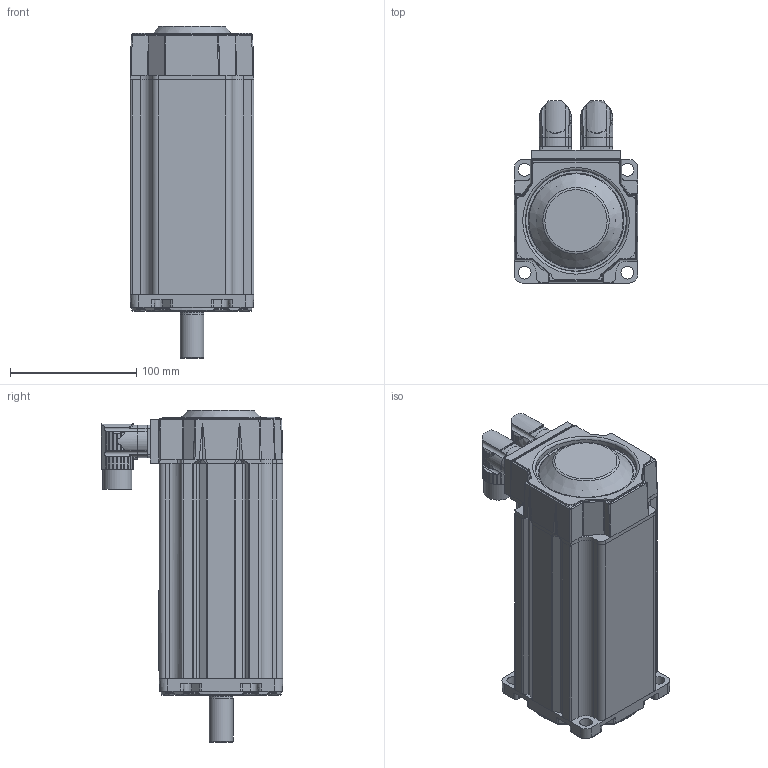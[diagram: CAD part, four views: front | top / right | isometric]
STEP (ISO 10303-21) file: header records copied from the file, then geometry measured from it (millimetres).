
FILE_DESCRIPTION((''),'2;1');
FILE_NAME('C:\CAD_work\Dummy_Modeling_Project_02-12-05\3D MODELS\MPP1003XXX_NPSB.stp','2005-12-20T17:07:00',('jevans'),(''),'Autodesk Inventor 10','Autodesk Inventor 10','');
FILE_SCHEMA(('AUTOMOTIVE_DESIGN { 1 0 10303 214 1 1 1 1 }'));
Length unit declared in the file: inch
Products named in the file (1): MPP100_MOTOR
Bounding box: 97.79 x 143.77 x 262.85 mm (x, y, z)
Volume: 1867045.2 mm3; surface area: 149615.3 mm2
Topology: 4 solids, 4 shells, 1043 faces, 2680 edges, 1680 vertices
Faces by surface type: bspline 341, cylinder 338, plane 258, cone 77, torus 21, sphere 8
Full cylindrical faces by diameter (mm): 1.016 x17, 1.956 x6, 2.362 x2, 18.644 x1, 18.999 x1, 19.05 x1, 19.66 x1, 19.939 x1, 19.99 x1, 22.86 x1, 25.4 x1, 40.005 x1, 51.511 x1, 51.994 x1, 52.019 x1, 52.261 x1, 55.143 x1, 60.325 x1, 80.366 x1
Entity records: 41628 total; most frequent: CARTESIAN_POINT 18595, ORIENTED_EDGE 5134, DIRECTION 4189, EDGE_CURVE 2567, VERTEX_POINT 1656, AXIS2_PLACEMENT_3D 1629, EDGE_LOOP 1193, FACE_OUTER_BOUND 1043
